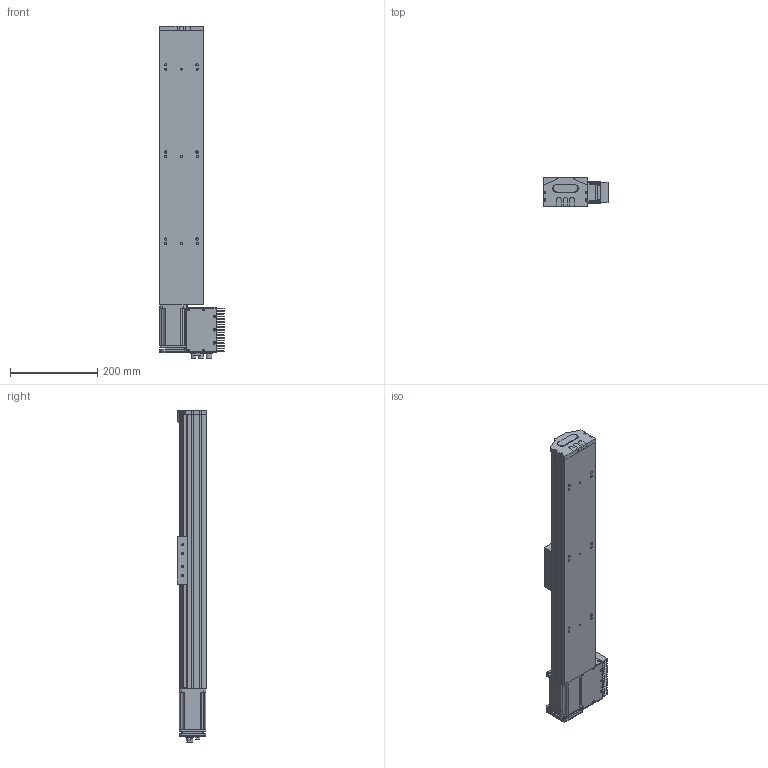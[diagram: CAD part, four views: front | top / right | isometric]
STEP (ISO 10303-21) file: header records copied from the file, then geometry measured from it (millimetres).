
FILE_DESCRIPTION (( 'STEP AP203' ), '1' );
FILE_NAME ('S 10 TSH MD S400.STEP', '2012-08-29T10:09:05', ( 'Conseil Régional Haute-Normandie' ), ( 'Conseil Régional Haute-Normandie' ), 'SwSTEP 2.0', 'SolidWorks 2010', '' );
FILE_SCHEMA (( 'CONFIG_CONTROL_DESIGN' ));
Length unit declared in the file: millimetre
Products named in the file (23): embout_modifié; S 10 TSH MD S400; remplir_Default; Pièce2_Default; BU45 Carte d''axe A11_5; Moteur 60BLDC90A_3; Couvercle_3; Radiateur profil_X2_00E9_X0_ 100x25_3; Colonnette ronde_3; axe630_Default; palette tbn2; piece_plastique remplieTSH_Default; Assem1_7; T_X2_00F4_X0_le contre le moteur_5; BU41 Carte Alimentation P05_3; Colonnette_3; T_X2_00F4_X0_le fond_3; Connecteur rond D10 3cts_5; Connecteur rond D12 4cts_5; Sub D 9cts 90_X2_00B_X0__3; T_X2_00F4_X0_le Arri_X2_00E8_X0_re_5; T_X2_00F4_X0_le lat_X2_00E9_X0_rale_5; Vis TF 3 torkx_1_1
Assembly tree (47 placements, depth 3):
  S 10 TSH MD S400
    palette tbn2
    Assem1_7
      Vis TF 3 torkx_1_1  x21
      Sub D 9cts 90_X2_00B_X0__3
      T_X2_00F4_X0_le lat_X2_00E9_X0_rale_5  x2
      Colonnette_3  x2
      T_X2_00F4_X0_le contre le moteur_5
      BU45 Carte d''axe A11_5
      Connecteur rond D10 3cts_5  x2
      BU41 Carte Alimentation P05_3
      Connecteur rond D12 4cts_5
      T_X2_00F4_X0_le fond_3
      Colonnette ronde_3
      Couvercle_3
      Radiateur profil_X2_00E9_X0_ 100x25_3
      T_X2_00F4_X0_le Arri_X2_00E8_X0_re_5
      Moteur 60BLDC90A_3
    axe630_Default
    piece_plastique remplieTSH_Default
      remplir_Default  x3
      embout_modifié
      Pièce2_Default
Bounding box: 148.26 x 66.75 x 761.6 mm (x, y, z)
Volume: 3971312.4 mm3; surface area: 549183.1 mm2
Topology: 45 solids, 45 shells, 1719 faces, 4391 edges, 2858 vertices
Faces by surface type: plane 798, cylinder 768, cone 150, torus 3
Entity records: 36000 total; most frequent: CARTESIAN_POINT 6096, DIRECTION 5870, ORIENTED_EDGE 5358, EDGE_CURVE 2679, AXIS2_PLACEMENT_3D 2145, VERTEX_POINT 1758, VECTOR 1580, LINE 1580
